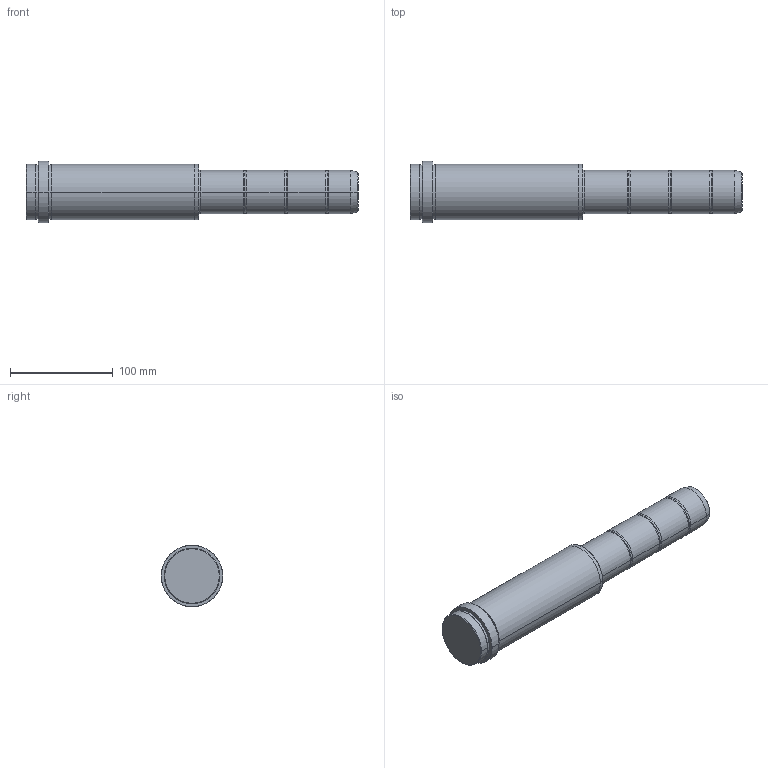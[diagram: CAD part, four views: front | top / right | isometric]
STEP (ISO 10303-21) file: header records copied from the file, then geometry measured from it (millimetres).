
FILE_DESCRIPTION (( 'STEP AP203' ), '1' );
FILE_NAME ('GDP-EC-42-156-155.step', '2015-12-05T20:21:55', ( '' ), ( '' ), 'SwSTEP 2.0', 'SolidWorks 2009', '' );
FILE_SCHEMA (( 'CONFIG_CONTROL_DESIGN' ));
Length unit declared in the file: millimetre
Products named in the file (1): GDP-EC-42-156-155
Bounding box: 323 x 60 x 60 mm (x, y, z)
Volume: 603232.8 mm3; surface area: 54536.6 mm2
Topology: 1 solids, 1 shells, 64 faces, 126 edges, 70 vertices
Faces by surface type: torus 26, cylinder 20, cone 10, plane 8
Entity records: 1727 total; most frequent: DIRECTION 352, CARTESIAN_POINT 261, ORIENTED_EDGE 252, AXIS2_PLACEMENT_3D 161, EDGE_CURVE 126, CIRCLE 96, EDGE_LOOP 70, VERTEX_POINT 70
